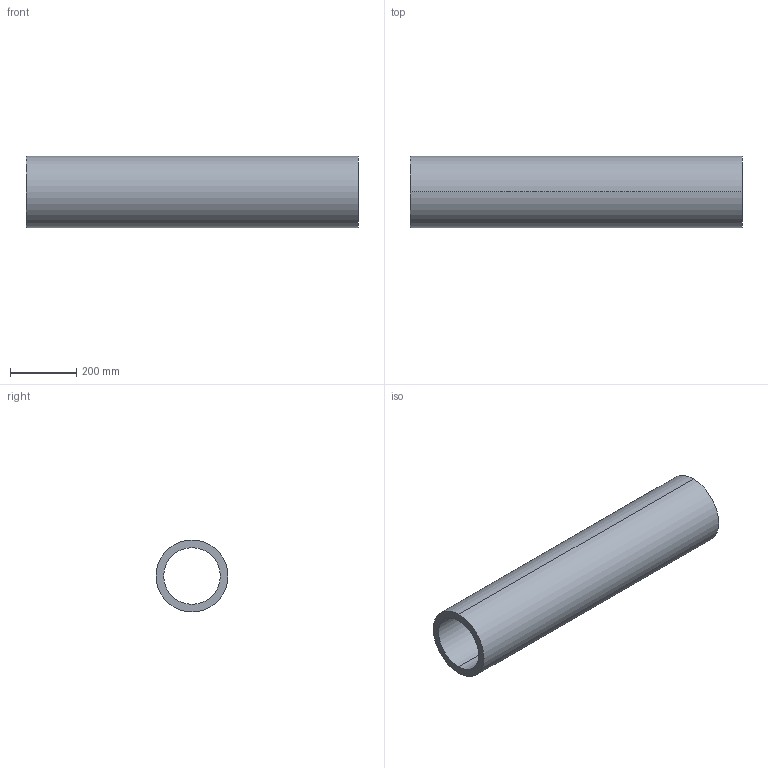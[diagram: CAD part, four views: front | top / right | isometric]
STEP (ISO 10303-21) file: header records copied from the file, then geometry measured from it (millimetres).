
FILE_DESCRIPTION (( 'STEP AP214' ), '1' );
FILE_NAME ('Sch160-200A.STEP', '2022-04-22T02:37:02', ( 'ASIS User' ), ( 'ASIS User' ), 'SwSTEP 2.0', 'SolidWorks 2022', '' );
FILE_SCHEMA (( 'AUTOMOTIVE_DESIGN' ));
Length unit declared in the file: millimetre
Products named in the file (1): Sch160-200A
Bounding box: 1000 x 216.3 x 216.3 mm (x, y, z)
Volume: 13967206.8 mm3; surface area: 1242474.1 mm2
Topology: 1 solids, 1 shells, 6 faces, 12 edges, 8 vertices
Faces by surface type: cylinder 4, plane 2
Entity records: 202 total; most frequent: DIRECTION 34, CARTESIAN_POINT 27, ORIENTED_EDGE 24, AXIS2_PLACEMENT_3D 15, EDGE_CURVE 12, VERTEX_POINT 8, EDGE_LOOP 8, CIRCLE 8
